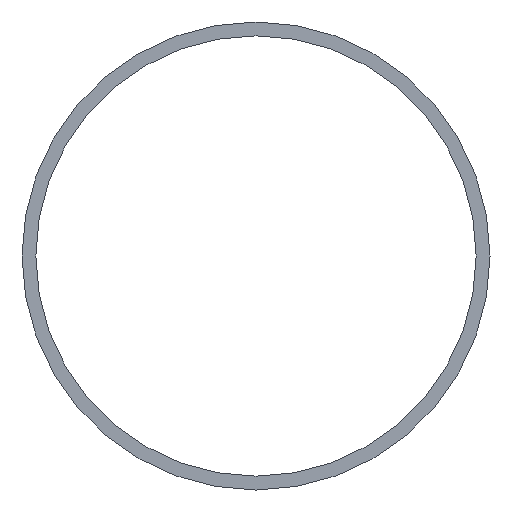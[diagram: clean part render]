
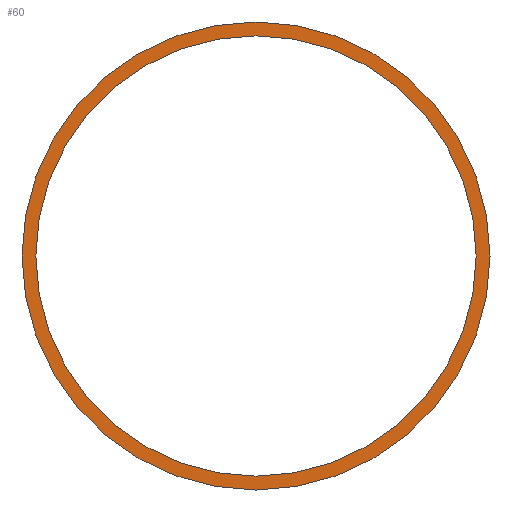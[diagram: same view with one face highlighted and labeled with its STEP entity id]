
A CAD part, left-side view. The second image highlights one B-rep face of the part: STEP entity #60.
In plain terms, the highlighted planar face has unit normal (-1, 0, 0).
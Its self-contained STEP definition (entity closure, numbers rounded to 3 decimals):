
#54=FACE_BOUND('',#72,.F.);
#56=PLANE('',#154);
#60=ADVANCED_FACE('',(#54,#66),#56,.T.);
#66=FACE_OUTER_BOUND('',#73,.F.);
#72=EDGE_LOOP('',(#86,#87));
#73=EDGE_LOOP('',(#88,#89));
#86=ORIENTED_EDGE('',*,*,#122,.T.);
#87=ORIENTED_EDGE('',*,*,#114,.T.);
#88=ORIENTED_EDGE('',*,*,#125,.F.);
#89=ORIENTED_EDGE('',*,*,#117,.F.);
#114=EDGE_CURVE('',#141,#140,#126,.T.);
#117=EDGE_CURVE('',#135,#134,#129,.T.);
#122=EDGE_CURVE('',#140,#141,#130,.T.);
#125=EDGE_CURVE('',#134,#135,#133,.T.);
#126=CIRCLE('',#144,35.75);
#129=CIRCLE('',#147,38.);
#130=CIRCLE('',#148,35.75);
#133=CIRCLE('',#151,38.);
#134=VERTEX_POINT('',#196);
#135=VERTEX_POINT('',#197);
#140=VERTEX_POINT('',#202);
#141=VERTEX_POINT('',#203);
#144=AXIS2_PLACEMENT_3D('',#204,#161,#162);
#147=AXIS2_PLACEMENT_3D('',#207,#167,#168);
#148=AXIS2_PLACEMENT_3D('',#212,#173,#174);
#151=AXIS2_PLACEMENT_3D('',#215,#179,#180);
#154=AXIS2_PLACEMENT_3D('',#218,#185,#186);
#161=DIRECTION('',(-1.,0.,0.));
#162=DIRECTION('',(0.,1.,0.));
#167=DIRECTION('',(-1.,0.,0.));
#168=DIRECTION('',(0.,1.,0.));
#173=DIRECTION('',(-1.,0.,0.));
#174=DIRECTION('',(0.,-1.,0.));
#179=DIRECTION('',(-1.,0.,0.));
#180=DIRECTION('',(0.,-1.,0.));
#185=DIRECTION('',(-1.,0.,0.));
#186=DIRECTION('',(0.,0.,1.));
#196=CARTESIAN_POINT('',(4.6,-38.,0.));
#197=CARTESIAN_POINT('',(4.6,38.,0.));
#202=CARTESIAN_POINT('',(4.6,-35.75,0.));
#203=CARTESIAN_POINT('',(4.6,35.75,0.));
#204=CARTESIAN_POINT('',(4.6,0.,0.));
#207=CARTESIAN_POINT('',(4.6,0.,0.));
#212=CARTESIAN_POINT('',(4.6,0.,0.));
#215=CARTESIAN_POINT('',(4.6,0.,0.));
#218=CARTESIAN_POINT('',(4.6,-38.76,-38.76));
